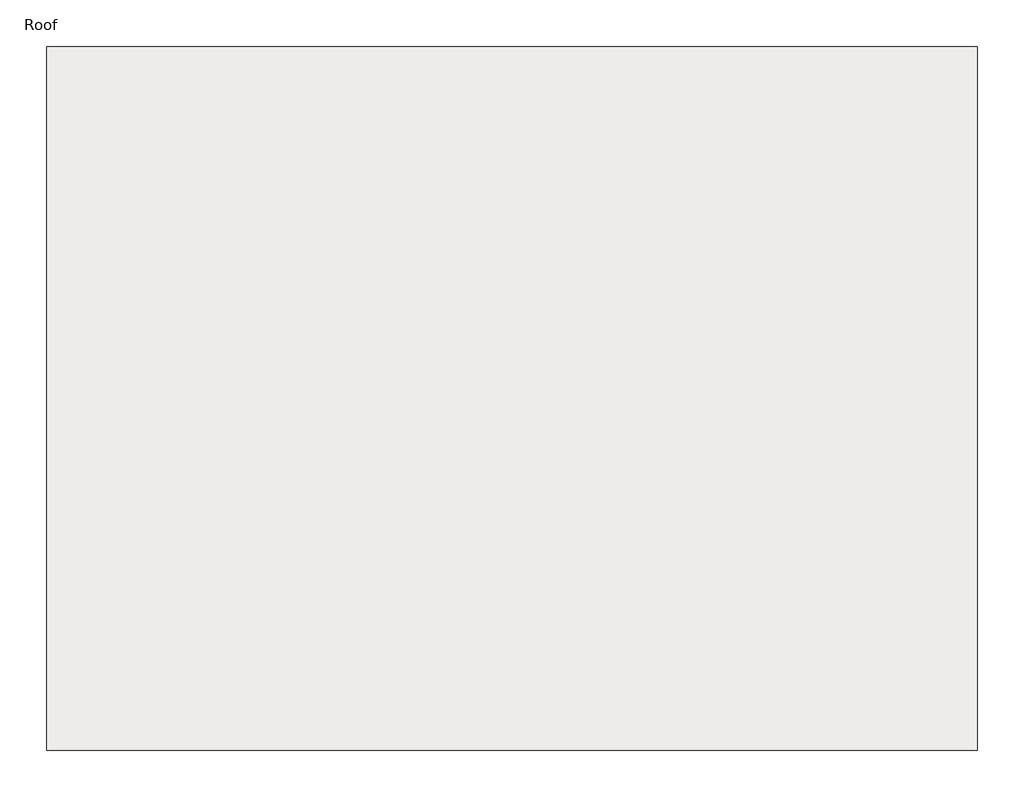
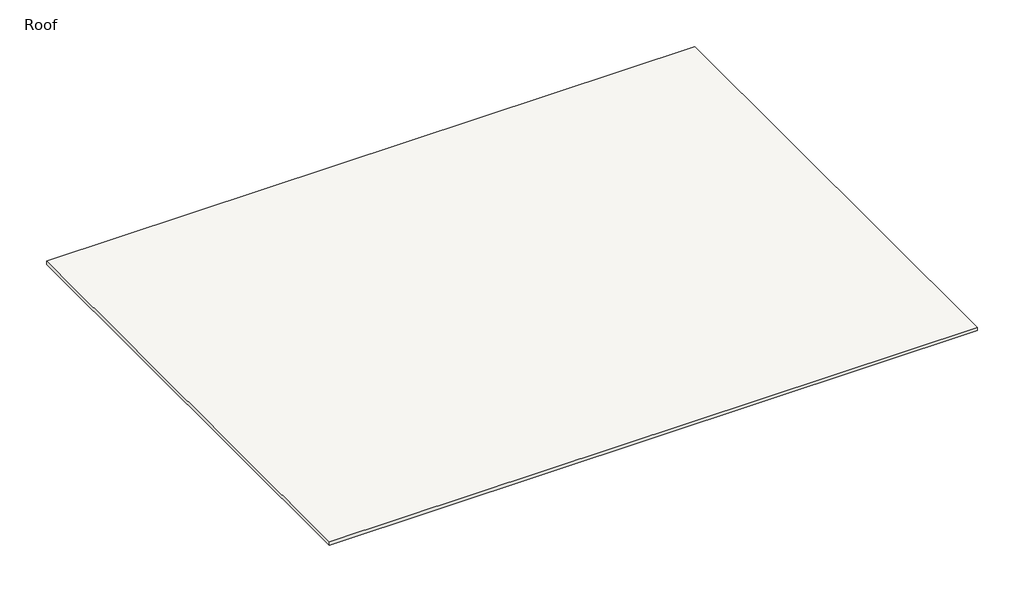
# One storey: 1 slab.
"""IFC4 building model written with IfcOpenShell, lengths in millimetres."""

from ifc_helpers import new_model, si_unit, frame, origin, place, context, project, spatial, polyline, outline, extrude, element, save

model = new_model("IFC4")

# Units and contexts
model_context = context("Model", 3, world=origin())
ifc_project = project(units=[si_unit("LENGTHUNIT", "METRE", prefix="MILLI")], contexts=[model_context])

# Site, building, storey
site = spatial("IfcSite", under=ifc_project)
building = spatial("IfcBuilding", under=site)
storey = spatial("IfcBuildingStorey", under=building, Name="Roof", Elevation=10972.8)

# Slab
placement = place(None, origin())
element("IfcSlab", 1, ObjectType="LW Concrete on Metal Deck", at=placement, inside=storey, context=model_context, shape_type="SweptSolid", body=[
    extrude(outline(polyline([(323.6277864, 12144.2830992), (323.6277864, -2025.7419008), (-18418.3972136, -2025.7419008), (-18418.3972136, 12144.2830992), (323.6277864, 12144.2830992)])), frame((0.0, 0.0, 10868.025), z_axis=(0.0, 0.0, 1.0), x_axis=(1.0, 0.0, 0.0)), (0.0, 0.0, 1.0), 104.775),
])

save(model, "model.ifc")
